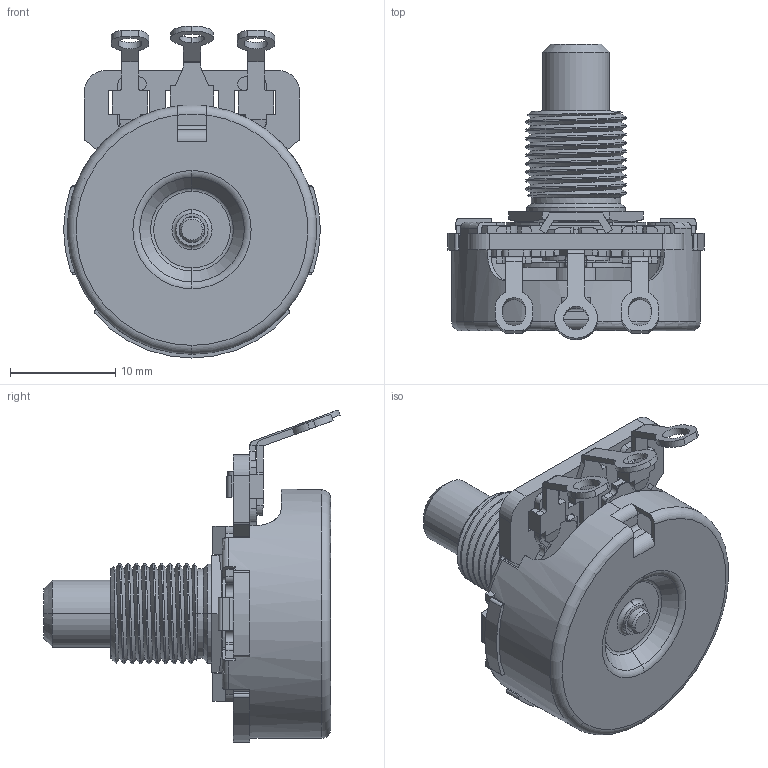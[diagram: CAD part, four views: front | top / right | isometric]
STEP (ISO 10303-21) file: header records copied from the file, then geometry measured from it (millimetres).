
FILE_DESCRIPTION (( 'STEP AP214' ), '1' );
FILE_NAME ('450GT35R254A2L.STEP', '2019-05-27T02:28:24', ( '' ), ( '' ), 'SwSTEP 2.0', 'SolidWorks 2019', '' );
FILE_SCHEMA (( 'AUTOMOTIVE_DESIGN' ));
Length unit declared in the file: millimetre
Products named in the file (10): 450S-ER-11162-20; 450A-104G; 450F-23 for T450AEDF; 450D-17 for T450AEDF; 45Q_18(for 450GT36K504B2L stamping); 45C-2Z-no lug; 450GT35R254A2L; 2-450B-6; T450AEDF(For 104G); 450 element
Assembly tree (10 placements, depth 3):
  450GT35R254A2L
    45Q_18(for 450GT36K504B2L stamping)
    T450AEDF(For 104G)
      450A-104G
      450D-17 for T450AEDF
      450 element
      450F-23 for T450AEDF  x2
    45C-2Z-no lug
    2-450B-6
    450S-ER-11162-20
Bounding box: 24.33 x 28.08 x 31.47 mm (x, y, z)
Volume: 2710.3 mm3; surface area: 6631.5 mm2
Topology: 9 solids, 9 shells, 688 faces, 1898 edges, 1234 vertices
Faces by surface type: plane 385, cylinder 245, torus 30, cone 26, bspline 2
Entity records: 21791 total; most frequent: CARTESIAN_POINT 5258, ORIENTED_EDGE 3430, DIRECTION 3379, EDGE_CURVE 1715, AXIS2_PLACEMENT_3D 1155, VERTEX_POINT 1117, LINE 1069, VECTOR 1069
